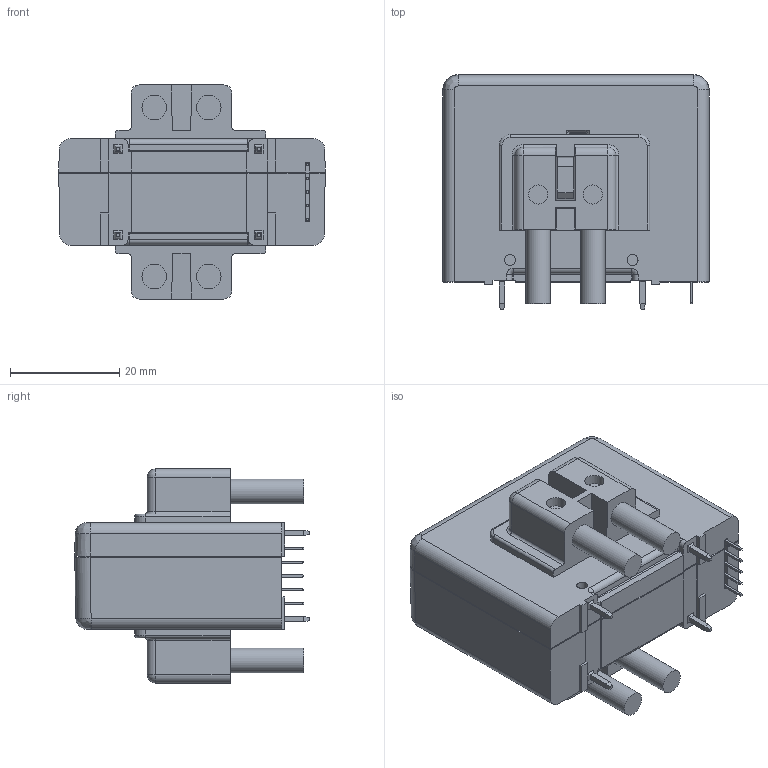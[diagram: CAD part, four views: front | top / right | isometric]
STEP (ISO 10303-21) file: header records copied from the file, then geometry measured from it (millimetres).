
FILE_DESCRIPTION(/* description */ (''),/* implementation_level */ '2;1');
FILE_NAME(/* name */ 'STB-200LA-Z 20210813.stp',/* time_stamp */ '2021-08-13T16:10:51+08:00',/* author */ (''),/* organization */ (''),/* preprocessor_version */ 'ST-DEVELOPER v15',/* originating_system */ 'SIEMENS PLM Software NX 8.5',/* authorisation */ '');
FILE_SCHEMA (('AUTOMOTIVE_DESIGN { 1 0 10303 214 3 1 1 1 }'));
Length unit declared in the file: millimetre
Products named in the file (1): LeiX16C808A6m5rw
Bounding box: 48.85 x 43 x 39.25 mm (x, y, z)
Volume: 38208.4 mm3; surface area: 14518.5 mm2
Topology: 1 solids, 1 shells, 696 faces, 1841 edges, 1168 vertices
Faces by surface type: plane 466, cylinder 131, bspline 41, cone 24, torus 24, sphere 10
Full cylindrical faces by diameter (mm): 2 x4, 3.5 x2, 4.5 x6
Entity records: 23155 total; most frequent: CARTESIAN_POINT 5421, ORIENTED_EDGE 3626, DIRECTION 3373, EDGE_CURVE 1813, LINE 1389, VECTOR 1389, VERTEX_POINT 1162, AXIS2_PLACEMENT_3D 992
